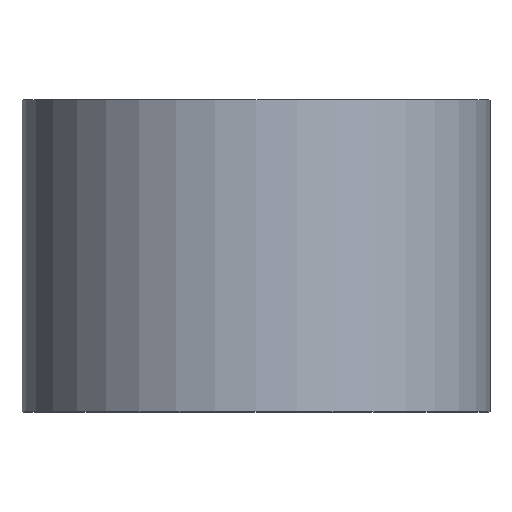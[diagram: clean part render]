
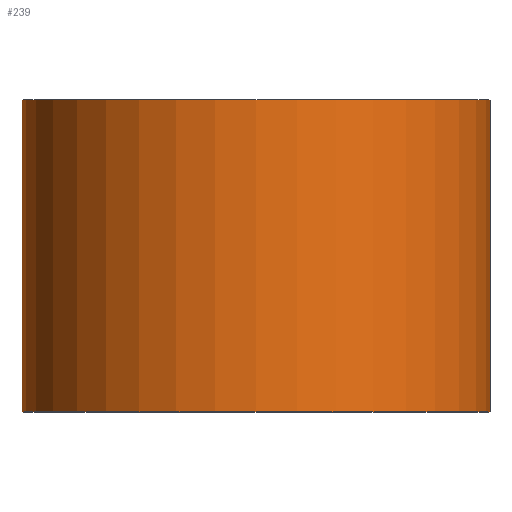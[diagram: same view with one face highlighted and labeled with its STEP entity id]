
A CAD part, top view. The second image highlights one B-rep face of the part: STEP entity #239.
In plain terms, the highlighted cylindrical face has radius 9 mm (diameter 18 mm), a partial arc.
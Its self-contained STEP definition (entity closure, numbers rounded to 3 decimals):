
#1 = ORIENTED_EDGE ( 'NONE', *, *, #147, .T. ) ;
#10 = CARTESIAN_POINT ( 'NONE',  ( 0., 0., 0. ) ) ;
#11 = AXIS2_PLACEMENT_3D ( 'NONE', #249, #122, #174 ) ;
#31 = CARTESIAN_POINT ( 'NONE',  ( 9., 0., 0. ) ) ;
#32 = ORIENTED_EDGE ( 'NONE', *, *, #133, .T. ) ;
#36 = DIRECTION ( 'NONE',  ( 0., 1., 0. ) ) ;
#39 = AXIS2_PLACEMENT_3D ( 'NONE', #143, #193, #52 ) ;
#51 = VERTEX_POINT ( 'NONE', #286 ) ;
#52 = DIRECTION ( 'NONE',  ( -1., 0., 0. ) ) ;
#78 = AXIS2_PLACEMENT_3D ( 'NONE', #10, #36, #172 ) ;
#81 = CARTESIAN_POINT ( 'NONE',  ( -9., 12., 0. ) ) ;
#87 = EDGE_CURVE ( 'NONE', #190, #284, #187, .T. ) ;
#101 = CARTESIAN_POINT ( 'NONE',  ( -9., 0., 0. ) ) ;
#103 = CARTESIAN_POINT ( 'NONE',  ( -9., 0., 0. ) ) ;
#113 = ORIENTED_EDGE ( 'NONE', *, *, #201, .F. ) ;
#121 = LINE ( 'NONE', #31, #275 ) ;
#122 = DIRECTION ( 'NONE',  ( 0., 1., 0. ) ) ;
#133 = EDGE_CURVE ( 'NONE', #212, #51, #194, .T. ) ;
#143 = CARTESIAN_POINT ( 'NONE',  ( 0., 12., 0. ) ) ;
#147 = EDGE_CURVE ( 'NONE', #51, #284, #121, .T. ) ;
#162 = ORIENTED_EDGE ( 'NONE', *, *, #87, .F. ) ;
#172 = DIRECTION ( 'NONE',  ( -1., 0., 0. ) ) ;
#174 = DIRECTION ( 'NONE',  ( -1., 0., 0. ) ) ;
#176 = EDGE_LOOP ( 'NONE', ( #32, #1, #162, #113 ) ) ;
#187 = CIRCLE ( 'NONE', #39, 9. ) ;
#190 = VERTEX_POINT ( 'NONE', #81 ) ;
#193 = DIRECTION ( 'NONE',  ( 0., 1., 0. ) ) ;
#194 = CIRCLE ( 'NONE', #78, 9. ) ;
#201 = EDGE_CURVE ( 'NONE', #212, #190, #225, .T. ) ;
#210 = FACE_OUTER_BOUND ( 'NONE', #176, .T. ) ;
#212 = VERTEX_POINT ( 'NONE', #101 ) ;
#217 = VECTOR ( 'NONE', #219, 1000. ) ;
#219 = DIRECTION ( 'NONE',  ( 0., 1., 0. ) ) ;
#225 = LINE ( 'NONE', #103, #217 ) ;
#239 = ADVANCED_FACE ( 'NONE', ( #210 ), #295, .T. ) ;
#249 = CARTESIAN_POINT ( 'NONE',  ( 0., 0., 0. ) ) ;
#274 = DIRECTION ( 'NONE',  ( 0., 1., 0. ) ) ;
#275 = VECTOR ( 'NONE', #274, 1000. ) ;
#284 = VERTEX_POINT ( 'NONE', #300 ) ;
#286 = CARTESIAN_POINT ( 'NONE',  ( 9., 0., 0. ) ) ;
#295 = CYLINDRICAL_SURFACE ( 'NONE', #11, 9. ) ;
#300 = CARTESIAN_POINT ( 'NONE',  ( 9., 12., 0. ) ) ;
